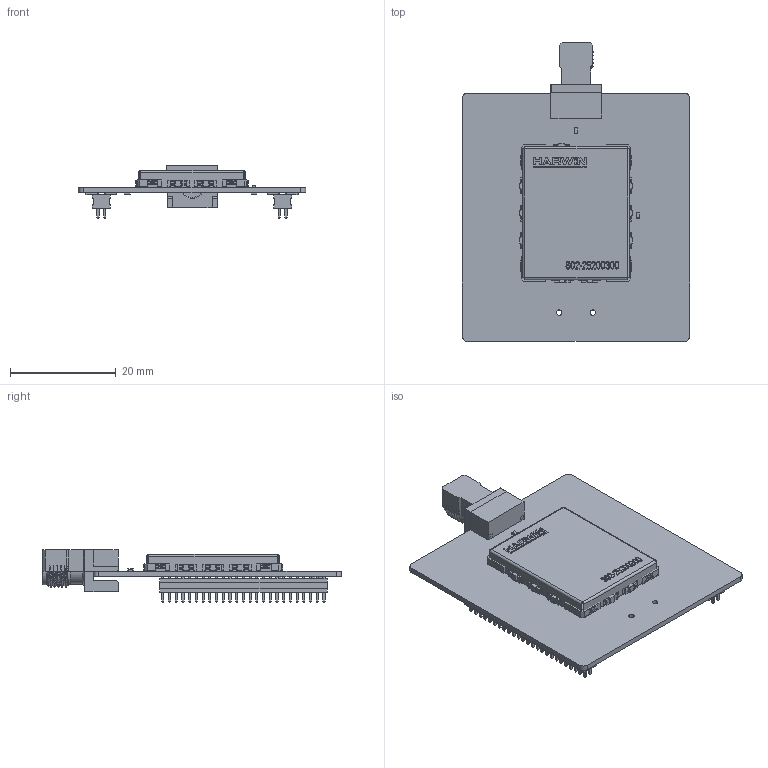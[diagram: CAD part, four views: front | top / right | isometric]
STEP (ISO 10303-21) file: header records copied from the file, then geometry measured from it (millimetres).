
FILE_DESCRIPTION(('Open CASCADE Model'),'2;1');
FILE_NAME('Open CASCADE Shape Model','2026-03-05T17:25:12',('Author'),( 'Open CASCADE'),'Open CASCADE STEP processor 7.5','Open CASCADE 7.5' ,'Unknown');
FILE_SCHEMA(('AUTOMOTIVE_DESIGN { 1 0 10303 214 1 1 1 1 }'));
Length unit declared in the file: millimetre
Products named in the file (121): PCB; Board; Open CASCADE STEP translator 7.5 1.1.1; U2; 10318971248; Sphere; 10318970688; Cylinder; 10318970528; Extruded; C7; C0402; 10318968848; SB19; R0402; 7257856224; L9; 7235373472; 7235373552; 7235373632; 7235373712; U1; QFN32-EPAD_5X5_P050; SB1; R0201; 7235372832; SC13; Shield clip s0951-46; 7235370192; SC12; 7235370592; SC11; SC10; SC9; SB15; SB14; HW1; S02-25200300; X1; 7235373232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
Assembly tree (166 placements, depth 4):
  PCB
    Board
      Open CASCADE STEP translator 7.5 1.1.1
    U2
      10318971248  x5
        Sphere
      10318970688
        Cylinder
      10318970528
        Extruded
    C7
      C0402
      10318968848
        Extruded
    SB19
      R0402
      7257856224
        Extruded
    L9
      7235373472
        Extruded
      7235373552
        Extruded
      7235373632
        Extruded
      7235373712
        Extruded
    U1
      QFN32-EPAD_5X5_P050
    SB1
      R0201
      7235372832
        Extruded
    SC13
      Shield clip s0951-46
      7235370192
        Extruded
    SC12
      Shield clip s0951-46
      7235370592
        Extruded
    SC11
      Shield clip s0951-46
      7235370592
        Extruded
    SC10
      Shield clip s0951-46
      7235370592
        Extruded
    SC9
      Shield clip s0951-46
      7235370592
        Extruded
    SB15
      R0402
      7257856224
        Extruded
    SB14
      R0402
      7257856224
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Bounding box: 43 x 56.55 x 9.92 mm (x, y, z)
Volume: 3793.8 mm3; surface area: 10265.6 mm2
Topology: 107 solids, 107 shells, 8933 faces, 22465 edges, 13570 vertices
Faces by surface type: plane 6056, cylinder 1746, bspline 714, sphere 331, torus 56, revolution 24, cone 6
Full cylindrical faces by diameter (mm): 0.3 x1, 0.991 x1, 1 x2, 4.674 x1, 5.08 x1, 5.385 x1
Entity records: 134929 total; most frequent: CARTESIAN_POINT 31250, ORIENTED_EDGE 18990, DIRECTION 17489, EDGE_CURVE 9495, LINE 7847, VECTOR 7847, VERTEX_POINT 6033, AXIS2_PLACEMENT_3D 4817
